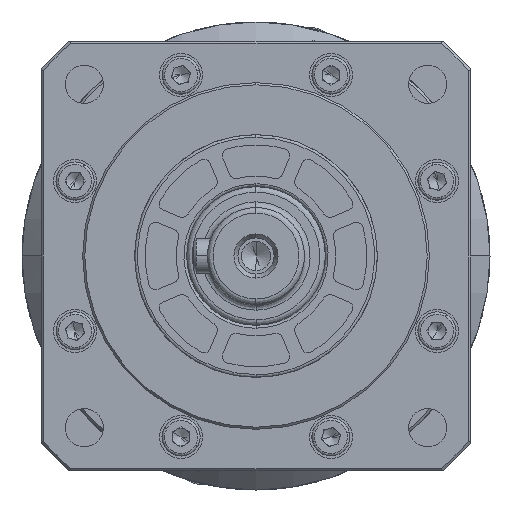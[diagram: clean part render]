
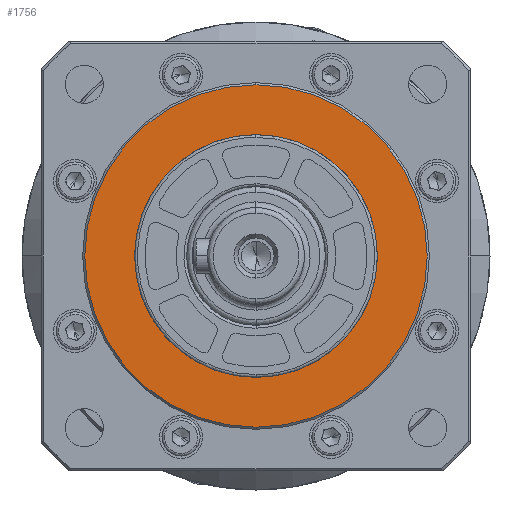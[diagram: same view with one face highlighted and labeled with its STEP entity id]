
A CAD part, left-side view. The second image highlights one B-rep face of the part: STEP entity #1756.
In plain terms, the highlighted planar face has unit normal (-1, 0, 0).
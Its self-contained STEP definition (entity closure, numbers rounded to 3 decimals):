
#218 = DIRECTION ( 'NONE',  ( 1., 0., 0. ) ) ;
#630 = FACE_BOUND ( 'NONE', #28287, .T. ) ;
#843 = CARTESIAN_POINT ( 'NONE',  ( 0., 0., 17.5 ) ) ;
#869 = EDGE_CURVE ( 'NONE', #36132, #8186, #39789, .T. ) ;
#1756 = ADVANCED_FACE ( 'NONE', ( #630, #19674 ), #15119, .F. ) ;
#2022 = DIRECTION ( 'NONE',  ( 1., 0., 0. ) ) ;
#2543 = DIRECTION ( 'NONE',  ( 0., 0., 1. ) ) ;
#3108 = ORIENTED_EDGE ( 'NONE', *, *, #3456, .F. ) ;
#3456 = EDGE_CURVE ( 'NONE', #8186, #36132, #23445, .T. ) ;
#4251 = ORIENTED_EDGE ( 'NONE', *, *, #7553, .F. ) ;
#5553 = AXIS2_PLACEMENT_3D ( 'NONE', #34393, #22139, #28263 ) ;
#6461 = CIRCLE ( 'NONE', #31273, 17.5 ) ;
#6648 = CARTESIAN_POINT ( 'NONE',  ( 0., 0., -17.5 ) ) ;
#7344 = DIRECTION ( 'NONE',  ( 0., 0., 1. ) ) ;
#7553 = EDGE_CURVE ( 'NONE', #20131, #41027, #6461, .T. ) ;
#8186 = VERTEX_POINT ( 'NONE', #23231 ) ;
#8453 = EDGE_LOOP ( 'NONE', ( #40783, #3108 ) ) ;
#8774 = ORIENTED_EDGE ( 'NONE', *, *, #27234, .F. ) ;
#10646 = AXIS2_PLACEMENT_3D ( 'NONE', #39056, #23334, #7344 ) ;
#14224 = AXIS2_PLACEMENT_3D ( 'NONE', #28609, #218, #38068 ) ;
#15119 = PLANE ( 'NONE',  #5553 ) ;
#15814 = CARTESIAN_POINT ( 'NONE',  ( 0., 0., -24.7 ) ) ;
#19674 = FACE_OUTER_BOUND ( 'NONE', #8453, .T. ) ;
#20131 = VERTEX_POINT ( 'NONE', #6648 ) ;
#22128 = AXIS2_PLACEMENT_3D ( 'NONE', #30941, #2022, #30798 ) ;
#22139 = DIRECTION ( 'NONE',  ( 1., 0., 0. ) ) ;
#22287 = CIRCLE ( 'NONE', #10646, 17.5 ) ;
#23231 = CARTESIAN_POINT ( 'NONE',  ( 0., 0., 24.7 ) ) ;
#23334 = DIRECTION ( 'NONE',  ( -1., 0., 0. ) ) ;
#23445 = CIRCLE ( 'NONE', #14224, 24.7 ) ;
#27234 = EDGE_CURVE ( 'NONE', #41027, #20131, #22287, .T. ) ;
#28263 = DIRECTION ( 'NONE',  ( 0., 0., -1. ) ) ;
#28287 = EDGE_LOOP ( 'NONE', ( #8774, #4251 ) ) ;
#28609 = CARTESIAN_POINT ( 'NONE',  ( 0., 0., 0. ) ) ;
#30798 = DIRECTION ( 'NONE',  ( 0., 0., -1. ) ) ;
#30941 = CARTESIAN_POINT ( 'NONE',  ( 0., 0., 0. ) ) ;
#31178 = DIRECTION ( 'NONE',  ( -1., 0., 0. ) ) ;
#31273 = AXIS2_PLACEMENT_3D ( 'NONE', #34409, #31178, #2543 ) ;
#34393 = CARTESIAN_POINT ( 'NONE',  ( 0., 17.5, 0. ) ) ;
#34409 = CARTESIAN_POINT ( 'NONE',  ( 0., 0., 0. ) ) ;
#36132 = VERTEX_POINT ( 'NONE', #15814 ) ;
#38068 = DIRECTION ( 'NONE',  ( 0., 0., -1. ) ) ;
#39056 = CARTESIAN_POINT ( 'NONE',  ( 0., 0., 0. ) ) ;
#39789 = CIRCLE ( 'NONE', #22128, 24.7 ) ;
#40783 = ORIENTED_EDGE ( 'NONE', *, *, #869, .F. ) ;
#41027 = VERTEX_POINT ( 'NONE', #843 ) ;
